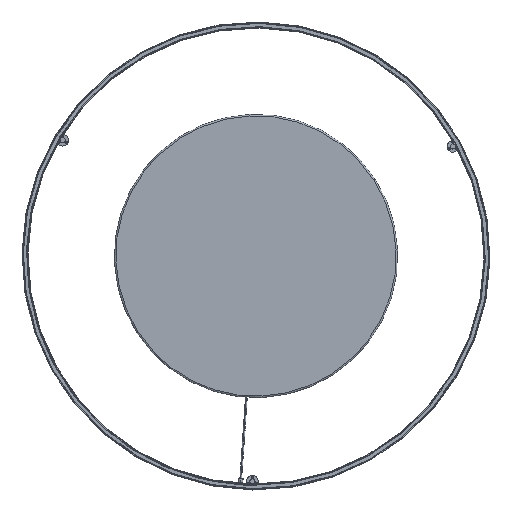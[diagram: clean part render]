
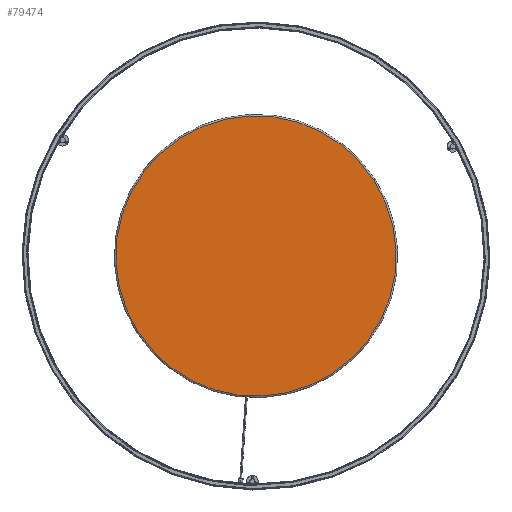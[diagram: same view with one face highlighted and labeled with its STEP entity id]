
A CAD part, front view. The second image highlights one B-rep face of the part: STEP entity #79474.
In plain terms, the highlighted planar face has unit normal (0, -1, -0.001).
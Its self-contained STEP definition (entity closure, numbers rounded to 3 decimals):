
#7179 = ORIENTED_EDGE ( 'NONE', *, *, #125014, .F. ) ;
#13738 = CARTESIAN_POINT ( 'NONE',  ( 0., -1., 0. ) ) ;
#23220 = CIRCLE ( 'NONE', #27744, 539.1 ) ;
#27744 = AXIS2_PLACEMENT_3D ( 'NONE', #89656, #33942, #36018 ) ;
#33942 = DIRECTION ( 'NONE',  ( 0., 1., 0. ) ) ;
#36018 = DIRECTION ( 'NONE',  ( 0., 0., 1. ) ) ;
#40553 = FACE_OUTER_BOUND ( 'NONE', #90639, .T. ) ;
#43091 = CIRCLE ( 'NONE', #49839, 539.1 ) ;
#48430 = EDGE_CURVE ( 'NONE', #136586, #67090, #23220, .T. ) ;
#49839 = AXIS2_PLACEMENT_3D ( 'NONE', #13738, #120334, #87152 ) ;
#50441 = CARTESIAN_POINT ( 'NONE',  ( 0., -1., 0. ) ) ;
#63855 = PLANE ( 'NONE',  #73698 ) ;
#67090 = VERTEX_POINT ( 'NONE', #125574 ) ;
#73698 = AXIS2_PLACEMENT_3D ( 'NONE', #50441, #94918, #118172 ) ;
#75050 = CARTESIAN_POINT ( 'NONE',  ( 0., -1., -539.1 ) ) ;
#79474 = ADVANCED_FACE ( 'NONE', ( #40553 ), #63855, .F. ) ;
#87152 = DIRECTION ( 'NONE',  ( 0., 0., 1. ) ) ;
#89656 = CARTESIAN_POINT ( 'NONE',  ( 0., -1., 0. ) ) ;
#90639 = EDGE_LOOP ( 'NONE', ( #7179, #108249 ) ) ;
#94918 = DIRECTION ( 'NONE',  ( 0., 1., 0. ) ) ;
#108249 = ORIENTED_EDGE ( 'NONE', *, *, #48430, .F. ) ;
#118172 = DIRECTION ( 'NONE',  ( 0., 0., 1. ) ) ;
#120334 = DIRECTION ( 'NONE',  ( 0., 1., 0. ) ) ;
#125014 = EDGE_CURVE ( 'NONE', #67090, #136586, #43091, .T. ) ;
#125574 = CARTESIAN_POINT ( 'NONE',  ( 0., -1., 539.1 ) ) ;
#136586 = VERTEX_POINT ( 'NONE', #75050 ) ;
